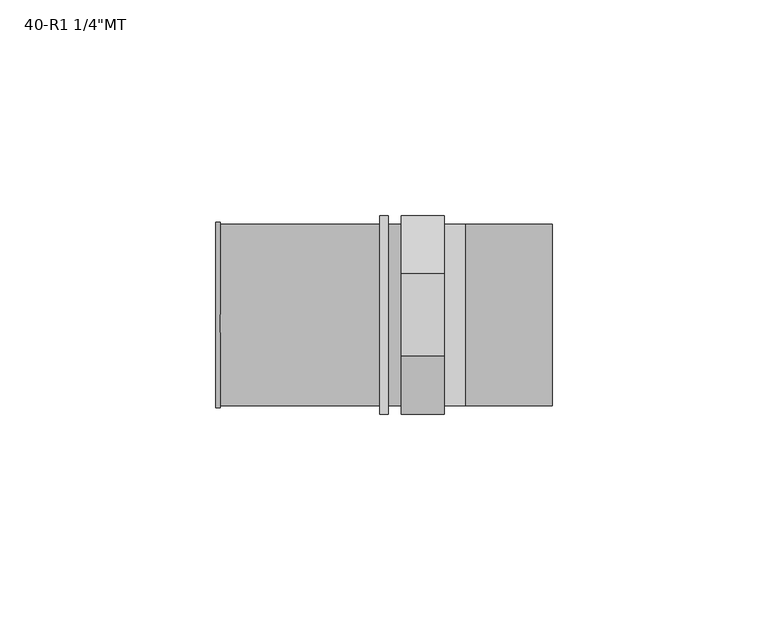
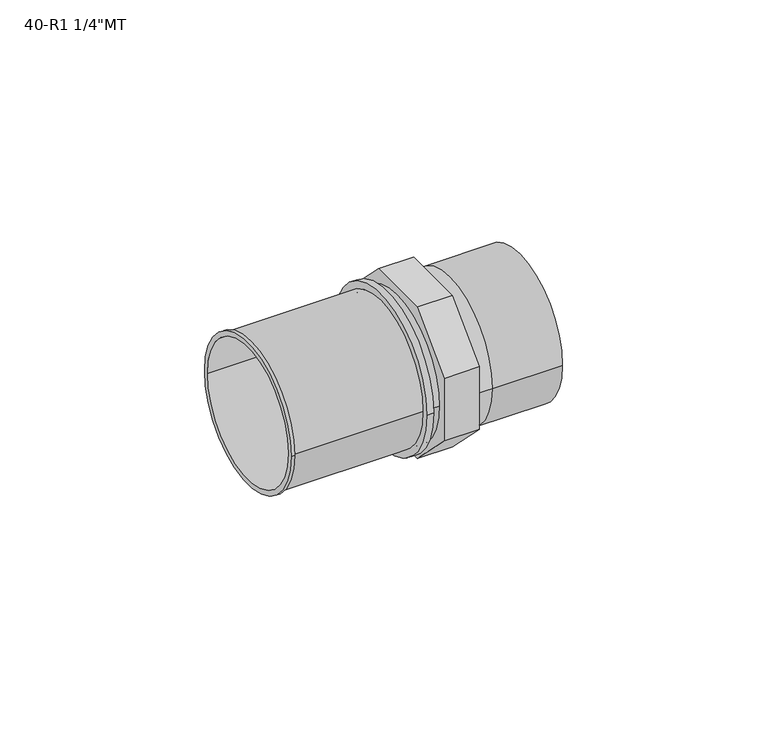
"""IFC4 building model written with IfcOpenShell, lengths in millimetres: pipe fitting geometry."""

from ifc_helpers import new_model, si_unit, point, frame, origin, origin_2d, place, context, project, spatial, polyline, circle_curve, trimmed, segment, composite_curve, outline, extrude, source, transform, mapped, element, save
from ifc_brep_helpers import plane_surface, cylinder_surface, revolved_surface, advanced_brep


def pipe_fitting_61145630(model_context):
    return source(origin(), model_context, "Body", "SolidModel", [
        advanced_brep(
        [(-5.0, -23.0, 9.5269119), (-5.0, -9.5269119, 23.0), (-5.0, 9.5269119, 23.0), (-5.0, 23.0, 9.5269119), (-5.0, 23.0, -9.5269119), (-5.0, 9.5269119, -23.0), (-5.0, -9.5269119, -23.0), (-5.0, -23.0, -9.5269119), (5.0, -23.0, 9.5269119), (5.0, -23.0, -9.5269119), (5.0, -9.5269119, -23.0), (5.0, 9.5269119, -23.0), (5.0, 23.0, -9.5269119), (5.0, 23.0, 9.5269119), (5.0, 9.5269119, 23.0), (5.0, -9.5269119, 23.0), (5.0, -21.0, 0.0), (5.0, 21.0, 0.0), (30.0, -21.0, 0.0), (30.0, 21.0, 0.0), (30.0, -17.0, 0.0), (30.0, 17.0, 0.0), (11.0, 17.0, 0.0), (11.0, -17.0, 0.0), (11.0, 21.0, 0.0), (10.0, 21.0, 0.0), (10.0, -21.0, 0.0), (11.0, -21.0, 0.0)],
        [
            (0, 1),
            (1, 2),
            (2, 3),
            (3, 4),
            (4, 5),
            (5, 6),
            (6, 7),
            (7, 0),
            (8, 9),
            (9, 10),
            (10, 11),
            (11, 12),
            (12, 13),
            (13, 14),
            (14, 15),
            (15, 8),
            (16, 17, circle_curve(frame((5.0, 0.0, 0.0), z_axis=(-1.0, 0.0, 0.0), x_axis=(0.0, -1.0, 0.0)), 21.0)),
            (17, 16, circle_curve(frame((5.0, 0.0, 0.0), z_axis=(-1.0, 0.0, 0.0), x_axis=(0.0, -1.0, 0.0)), 21.0)),
            (0, 8),
            (15, 1),
            (14, 2),
            (13, 3),
            (12, 4),
            (11, 5),
            (10, 6),
            (9, 7),
            (18, 19, circle_curve(frame((30.0, 0.0, 0.0), z_axis=(1.0, 0.0, 0.0), x_axis=(0.0, 1.0, 0.0)), 21.0)),
            (19, 18, circle_curve(frame((30.0, 0.0, 0.0), z_axis=(1.0, 0.0, 0.0), x_axis=(0.0, 1.0, 0.0)), 21.0)),
            (20, 21, circle_curve(frame((30.0, 0.0, 0.0), z_axis=(-1.0, 0.0, 0.0), x_axis=(0.0, 1.0, 0.0)), 17.0)),
            (21, 20, circle_curve(frame((30.0, 0.0, 0.0), z_axis=(-1.0, 0.0, 0.0), x_axis=(0.0, 1.0, 0.0)), 17.0)),
            (21, 22),
            (22, 23, circle_curve(frame((11.0, 0.0, 0.0), z_axis=(-1.0, 0.0, 0.0), x_axis=(0.0, 1.0, 0.0)), 17.0)),
            (23, 20),
            (23, 22, circle_curve(frame((11.0, 0.0, 0.0), z_axis=(-1.0, 0.0, 0.0), x_axis=(0.0, 1.0, 0.0)), 17.0)),
            (19, 24),
            (24, 25),
            (25, 26, circle_curve(frame((10.0, 0.0, 0.0), z_axis=(1.0, 0.0, 0.0), x_axis=(0.0, 1.0, 0.0)), 21.0)),
            (26, 27),
            (27, 18),
            (26, 25, circle_curve(frame((10.0, 0.0, 0.0), z_axis=(1.0, 0.0, 0.0), x_axis=(0.0, 1.0, 0.0)), 21.0)),
            (16, 26),
            (25, 17),
        ],
        [
            plane_surface(frame((-5.0, 0.0, 0.0), z_axis=(-1.0, 0.0, 0.0), x_axis=(0.0, 0.0, 1.0))),
            plane_surface(frame((5.0, 0.0, 0.0), z_axis=(1.0, 0.0, 0.0), x_axis=(0.0, 0.0, 1.0))),
            plane_surface(frame((-5.0, -23.0, 9.5269119), z_axis=(0.0, -0.7071067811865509, 0.7071067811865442), x_axis=(1.0, 0.0, 0.0))),
            plane_surface(frame((-5.0, -9.5269119, 23.0), z_axis=(0.0, 0.0, 1.0), x_axis=(1.0, 0.0, 0.0))),
            plane_surface(frame((-5.0, 9.5269119, 23.0), z_axis=(0.0, 0.7071067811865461, 0.7071067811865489), x_axis=(1.0, 0.0, 0.0))),
            plane_surface(frame((-5.0, 23.0, 9.5269119), z_axis=(0.0, 1.0, 0.0), x_axis=(1.0, 0.0, 0.0))),
            plane_surface(frame((-5.0, 23.0, -9.5269119), z_axis=(0.0, 0.7071067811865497, -0.7071067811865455), x_axis=(1.0, 0.0, 0.0))),
            plane_surface(frame((-5.0, 9.5269119, -23.0), z_axis=(0.0, 0.0, -1.0), x_axis=(1.0, 0.0, 0.0))),
            plane_surface(frame((-5.0, -9.5269119, -23.0), z_axis=(0.0, -0.7071067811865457, -0.7071067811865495), x_axis=(1.0, 0.0, 0.0))),
            plane_surface(frame((-5.0, -23.0, -9.5269119), z_axis=(0.0, -1.0, 0.0), x_axis=(1.0, 0.0, 0.0))),
            plane_surface(frame((30.0, 0.0, 0.0), z_axis=(1.0, 0.0, 0.0), x_axis=(0.0, 0.0, 1.0))),
            revolved_surface(polyline([(30.0, 17.0, 0.0), (11.0, 17.0, 0.0)]), (10.0, 0.0, 0.0), (1.0, 0.0, 0.0)),
            cylinder_surface(frame((10.0, 0.0, 0.0), z_axis=(-1.0, 0.0, 0.0), x_axis=(0.0, 1.0, 0.0)), 21.0),
            plane_surface(frame((11.0, 0.0, 0.0), z_axis=(1.0, 0.0, 0.0), x_axis=(0.0, 0.0, 1.0))),
            cylinder_surface(frame((11.0, 0.0, 0.0), z_axis=(1.0, 0.0, 0.0), x_axis=(0.0, -1.0, 0.0)), 21.0),
        ],
        [
            (0, [[1, 2, 3, 4, 5, 6, 7, 8]]),
            (1, [[9, 10, 11, 12, 13, 14, 15, 16], [17, 18]]),
            (2, [[-1, 19, -16, 20]]),
            (3, [[-2, -20, -15, 21]]),
            (4, [[-3, -21, -14, 22]]),
            (5, [[-4, -22, -13, 23]]),
            (6, [[-5, -23, -12, 24]]),
            (7, [[-6, -24, -11, 25]]),
            (8, [[-7, -25, -10, 26]]),
            (9, [[-8, -26, -9, -19]]),
            (10, [[27, 28], [29, 30]]),
            (11, [[-30, 31, 32, 33]]),
            (11, [[-29, -33, 34, -31]]),
            (12, [[-28, 35, 36, 37, 38, 39]]),
            (12, [[-27, -39, -38, 40, -36, -35]]),
            (13, [[-32, -34]]),
            (14, [[41, -37, 42, -17]]),
            (14, [[-41, -18, -42, -40]]),
        ],
    ),
        advanced_brep(
        [(-48.0, -21.5, 0.0), (-48.0, 21.5, 0.0), (-48.0, -20.0, 0.0), (-48.0, 20.0, 0.0), (-10.0, -21.0, 0.0), (-10.0, 21.0, 0.0), (-10.0, -20.0, 0.0), (-10.0, 20.0, 0.0), (-47.0, 21.0, 0.0), (-47.0, -21.0, 0.0), (-47.0, -21.5, 0.0), (-47.0, 21.5, 0.0)],
        [
            (0, 1, circle_curve(frame((-48.0, 0.0, 0.0), z_axis=(-1.0, 0.0, 0.0), x_axis=(0.0, 1.0, 0.0)), 21.5)),
            (1, 0, circle_curve(frame((-48.0, 0.0, 0.0), z_axis=(-1.0, 0.0, 0.0), x_axis=(0.0, 1.0, 0.0)), 21.5)),
            (2, 3, circle_curve(frame((-48.0, 0.0, 0.0), z_axis=(1.0, 0.0, 0.0), x_axis=(0.0, 1.0, 0.0)), 20.0)),
            (3, 2, circle_curve(frame((-48.0, 0.0, 0.0), z_axis=(1.0, 0.0, 0.0), x_axis=(0.0, 1.0, 0.0)), 20.0)),
            (4, 5, circle_curve(frame((-10.0, 0.0, 0.0), z_axis=(1.0, 0.0, 0.0), x_axis=(0.0, 1.0, 0.0)), 21.0)),
            (5, 4, circle_curve(frame((-10.0, 0.0, 0.0), z_axis=(1.0, 0.0, 0.0), x_axis=(0.0, 1.0, 0.0)), 21.0)),
            (6, 7, circle_curve(frame((-10.0, 0.0, 0.0), z_axis=(-1.0, 0.0, 0.0), x_axis=(0.0, 1.0, 0.0)), 20.0)),
            (7, 6, circle_curve(frame((-10.0, 0.0, 0.0), z_axis=(-1.0, 0.0, 0.0), x_axis=(0.0, 1.0, 0.0)), 20.0)),
            (2, 6),
            (7, 3),
            (5, 8),
            (8, 9, circle_curve(frame((-47.0, 0.0, 0.0), z_axis=(1.0, 0.0, 0.0), x_axis=(0.0, 1.0, 0.0)), 21.0)),
            (9, 4),
            (9, 8, circle_curve(frame((-47.0, 0.0, 0.0), z_axis=(1.0, 0.0, 0.0), x_axis=(0.0, 1.0, 0.0)), 21.0)),
            (10, 11, circle_curve(frame((-47.0, 0.0, 0.0), z_axis=(1.0, 0.0, 0.0), x_axis=(0.0, 1.0, 0.0)), 21.5)),
            (11, 10, circle_curve(frame((-47.0, 0.0, 0.0), z_axis=(1.0, 0.0, 0.0), x_axis=(0.0, 1.0, 0.0)), 21.5)),
            (0, 10),
            (11, 1),
        ],
        [
            plane_surface(frame((-48.0, 0.0, 0.0), z_axis=(-1.0, 0.0, 0.0), x_axis=(0.0, 0.0, 1.0))),
            plane_surface(frame((-10.0, 0.0, 0.0), z_axis=(1.0, 0.0, 0.0), x_axis=(0.0, 0.0, 1.0))),
            revolved_surface(polyline([(-10.0, 20.0, 0.0), (-48.0, 20.0, 0.0)]), (-48.0, 0.0, 0.0), (1.0, 0.0, 0.0)),
            cylinder_surface(frame((-48.0, 0.0, 0.0), z_axis=(-1.0, 0.0, 0.0), x_axis=(0.0, 1.0, 0.0)), 21.0),
            plane_surface(frame((-47.0, 0.0, 0.0), z_axis=(1.0, 0.0, 0.0), x_axis=(0.0, 0.0, 1.0))),
            cylinder_surface(frame((-48.0, 0.0, 0.0), z_axis=(-1.0, 0.0, 0.0), x_axis=(0.0, 1.0, 0.0)), 21.5),
        ],
        [
            (0, [[1, 2], [3, 4]]),
            (1, [[5, 6], [7, 8]]),
            (2, [[-3, 9, -8, 10]]),
            (2, [[-4, -10, -7, -9]]),
            (3, [[-6, 11, 12, 13]]),
            (3, [[-5, -13, 14, -11]]),
            (4, [[15, 16], [-12, -14]]),
            (5, [[-1, 17, -16, 18]]),
            (5, [[-2, -18, -15, -17]]),
        ],
    ),
        extrude(outline(composite_curve([segment(trimmed(circle_curve(origin_2d(), 23.0), [point((-23.0, 0.0))], [point((23.0, 0.0))], False, "CARTESIAN"), True, "CONTINUOUS"), segment(trimmed(circle_curve(origin_2d(), 23.0), [point((23.0, 0.0))], [point((-23.0, 0.0))], False, "CARTESIAN"), True, "CONTINUOUS")], self_intersect=False), holes=[composite_curve([segment(trimmed(circle_curve(origin_2d(), 20.0), [point((-20.0, 0.0))], [point((20.0, 0.0))], True, "CARTESIAN"), True, "CONTINUOUS"), segment(trimmed(circle_curve(origin_2d(), 20.0), [point((20.0, 0.0))], [point((-20.0, 0.0))], True, "CARTESIAN"), True, "CONTINUOUS")], self_intersect=False)]), frame((-10.0, 0.0, 0.0), z_axis=(1.0, 0.0, 0.0), x_axis=(0.0, 1.0, 0.0)), (0.0, 0.0, 1.0), 2.0),
        extrude(outline(composite_curve([segment(trimmed(circle_curve(origin_2d(), 21.0), [point((-21.0, 0.0))], [point((21.0, 0.0))], False, "CARTESIAN"), True, "CONTINUOUS"), segment(trimmed(circle_curve(origin_2d(), 21.0), [point((21.0, 0.0))], [point((-21.0, 0.0))], False, "CARTESIAN"), True, "CONTINUOUS")], self_intersect=False)), frame((-8.0, 0.0, 0.0), z_axis=(1.0, 0.0, 0.0), x_axis=(0.0, 1.0, 0.0)), (0.0, 0.0, 1.0), 3.0),
    ])


if __name__ == "__main__":
    model = new_model("IFC4")
    model_context = context("Model", 3, world=origin())
    ifc_project = project(units=[si_unit("LENGTHUNIT", "METRE", prefix="MILLI")], contexts=[model_context])
    site = spatial("IfcSite", under=ifc_project)
    building = spatial("IfcBuilding", under=site)
    placement = place(None, origin())
    pipe_fitting_shape = pipe_fitting_61145630(model_context)
    element("IfcPipeFitting", 1, ObjectType="SuperPipe_AdapterMT : 40-R1 1/4\"MT", at=placement, inside=building, context=model_context, shape_type="MappedRepresentation", body=[
        mapped(pipe_fitting_shape, transform((0.0, 0.0, 0.0), x_axis=(1.0, 0.0, 0.0), y_axis=(0.0, 1.0, 0.0), z_axis=(0.0, 0.0, 1.0))),
    ])
    save(model, "model.ifc")
